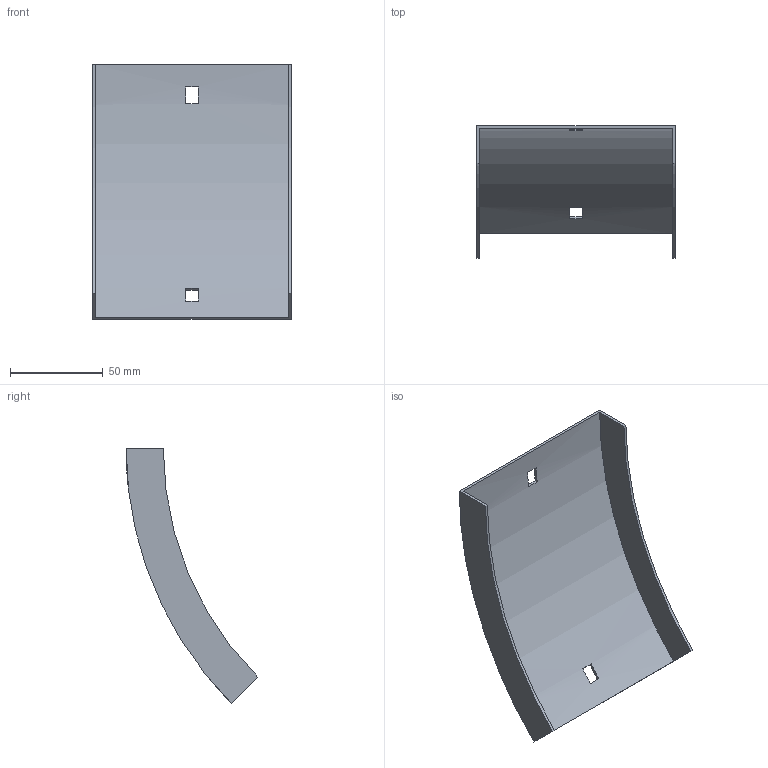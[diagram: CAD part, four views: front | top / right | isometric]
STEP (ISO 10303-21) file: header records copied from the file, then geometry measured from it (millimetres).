
FILE_DESCRIPTION (( 'STEP AP214' ), '1' );
FILE_NAME ('34N1I100.step', '2025-02-21T09:16:19', ( '' ), ( '' ), 'SwSTEP 2.0', 'SolidWorks 2023', '' );
FILE_SCHEMA (( 'AUTOMOTIVE_DESIGN' ));
Length unit declared in the file: millimetre
Products named in the file (1): 34N1I100
Bounding box: 107 x 70.96 x 137.18 mm (x, y, z)
Volume: 32172 mm3; surface area: 43833.1 mm2
Topology: 1 solids, 1 shells, 18 faces, 48 edges, 32 vertices
Faces by surface type: plane 14, cylinder 4
Entity records: 599 total; most frequent: DIRECTION 102, CARTESIAN_POINT 99, ORIENTED_EDGE 96, EDGE_CURVE 48, AXIS2_PLACEMENT_3D 35, VECTOR 32, VERTEX_POINT 32, LINE 32
